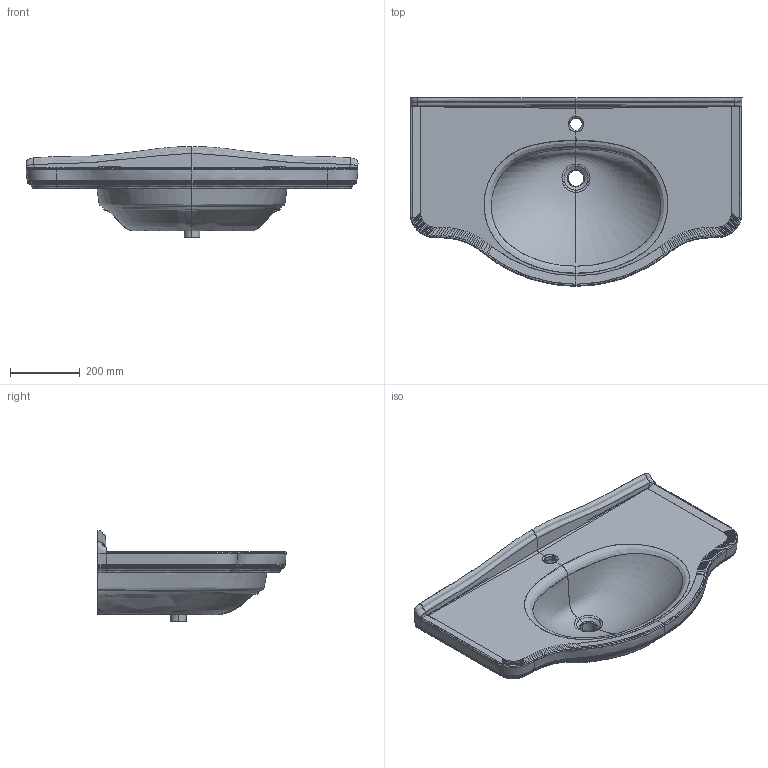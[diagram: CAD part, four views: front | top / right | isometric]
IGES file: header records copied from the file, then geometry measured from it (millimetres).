
Start section: START RECORD GO HERE.
Global section: file name: 8434M_Lavabo Ethos 95.igs; native system: DASSAULT SYSTEMES CATIA V5 R19 - www.3ds.com; preprocessor: CATIA Version 5 Release 19 SP 5 ; author: gioge; organization: LAPTOP-G94B6G74; date: 20200630.150401; units: millimetre
Bounding box: 950.33 x 539.39 x 260.02 mm (x, y, z)
Surface area: 1178646.9 mm2 (no closed solid volume)
Topology: 0 solids, 0 shells, 538 faces, 2919 edges, 2917 vertices
Faces by surface type: bspline 532, plane 6
